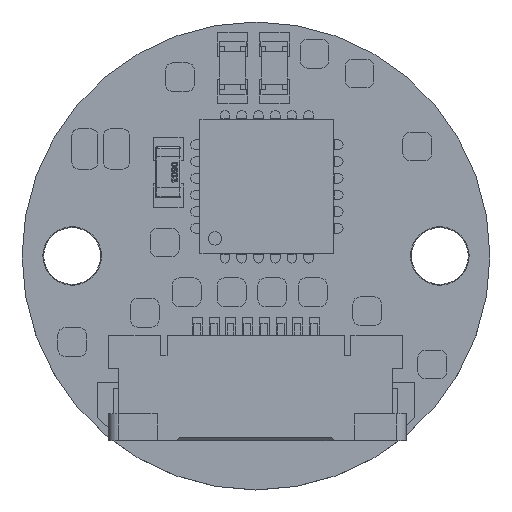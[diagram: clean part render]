
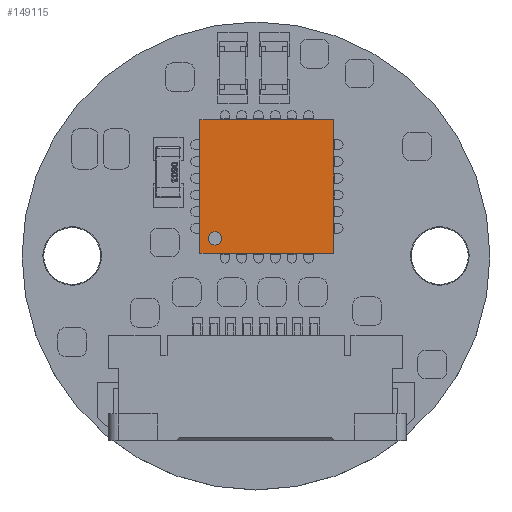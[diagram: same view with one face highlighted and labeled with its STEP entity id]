
A CAD part, top view. The second image highlights one B-rep face of the part: STEP entity #149115.
In plain terms, the highlighted planar face has unit normal (0, 0, 1).
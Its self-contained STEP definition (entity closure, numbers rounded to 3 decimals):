
#6220 = CARTESIAN_POINT ( 'NONE',  ( -1.676, 0.075, 0.9 ) ) ;
#17792 = ORIENTED_EDGE ( 'NONE', *, *, #102452, .F. ) ;
#22375 = DIRECTION ( 'NONE',  ( 0., 0., 1. ) ) ;
#33582 = DIRECTION ( 'NONE',  ( 1., 0., 0. ) ) ;
#34871 = CARTESIAN_POINT ( 'NONE',  ( -1.676, 0.075, 0.9 ) ) ;
#39282 = CARTESIAN_POINT ( 'NONE',  ( 2.324, 4.075, 0.9 ) ) ;
#43800 = EDGE_CURVE ( 'NONE', #66370, #62453, #121818, .T. ) ;
#46961 = LINE ( 'NONE', #109673, #142225 ) ;
#50724 = CARTESIAN_POINT ( 'NONE',  ( 2.324, 0.075, 0.9 ) ) ;
#51801 = VERTEX_POINT ( 'NONE', #59166 ) ;
#52608 = ORIENTED_EDGE ( 'NONE', *, *, #146507, .F. ) ;
#55695 = VECTOR ( 'NONE', #155883, 1000. ) ;
#58892 = DIRECTION ( 'NONE',  ( 1., 0., 0. ) ) ;
#59096 = CARTESIAN_POINT ( 'NONE',  ( 2.324, 4.075, 0.9 ) ) ;
#59166 = CARTESIAN_POINT ( 'NONE',  ( -1.676, 4.075, 0.9 ) ) ;
#61676 = DIRECTION ( 'NONE',  ( 0., 1., 0. ) ) ;
#61838 = VERTEX_POINT ( 'NONE', #39282 ) ;
#62453 = VERTEX_POINT ( 'NONE', #34871 ) ;
#66370 = VERTEX_POINT ( 'NONE', #50724 ) ;
#71002 = DIRECTION ( 'NONE',  ( 0., -1., 0. ) ) ;
#75537 = FACE_OUTER_BOUND ( 'NONE', #86120, .T. ) ;
#80076 = ORIENTED_EDGE ( 'NONE', *, *, #122947, .F. ) ;
#86120 = EDGE_LOOP ( 'NONE', ( #126901, #80076, #52608, #17792 ) ) ;
#92058 = PLANE ( 'NONE',  #136805 ) ;
#94447 = VECTOR ( 'NONE', #71002, 1000. ) ;
#98803 = VECTOR ( 'NONE', #61676, 1000. ) ;
#102452 = EDGE_CURVE ( 'NONE', #62453, #51801, #153227, .T. ) ;
#109673 = CARTESIAN_POINT ( 'NONE',  ( -1.676, 4.075, 0.9 ) ) ;
#121818 = LINE ( 'NONE', #143947, #55695 ) ;
#122947 = EDGE_CURVE ( 'NONE', #61838, #66370, #135467, .T. ) ;
#123094 = CARTESIAN_POINT ( 'NONE',  ( -1.676, 0.075, 0.9 ) ) ;
#126901 = ORIENTED_EDGE ( 'NONE', *, *, #43800, .F. ) ;
#135467 = LINE ( 'NONE', #59096, #94447 ) ;
#136805 = AXIS2_PLACEMENT_3D ( 'NONE', #6220, #22375, #58892 ) ;
#142225 = VECTOR ( 'NONE', #33582, 1000. ) ;
#143947 = CARTESIAN_POINT ( 'NONE',  ( 2.324, 0.075, 0.9 ) ) ;
#146507 = EDGE_CURVE ( 'NONE', #51801, #61838, #46961, .T. ) ;
#149115 = ADVANCED_FACE ( 'NONE', ( #75537 ), #92058, .T. ) ;
#153227 = LINE ( 'NONE', #123094, #98803 ) ;
#155883 = DIRECTION ( 'NONE',  ( -1., 0., 0. ) ) ;
